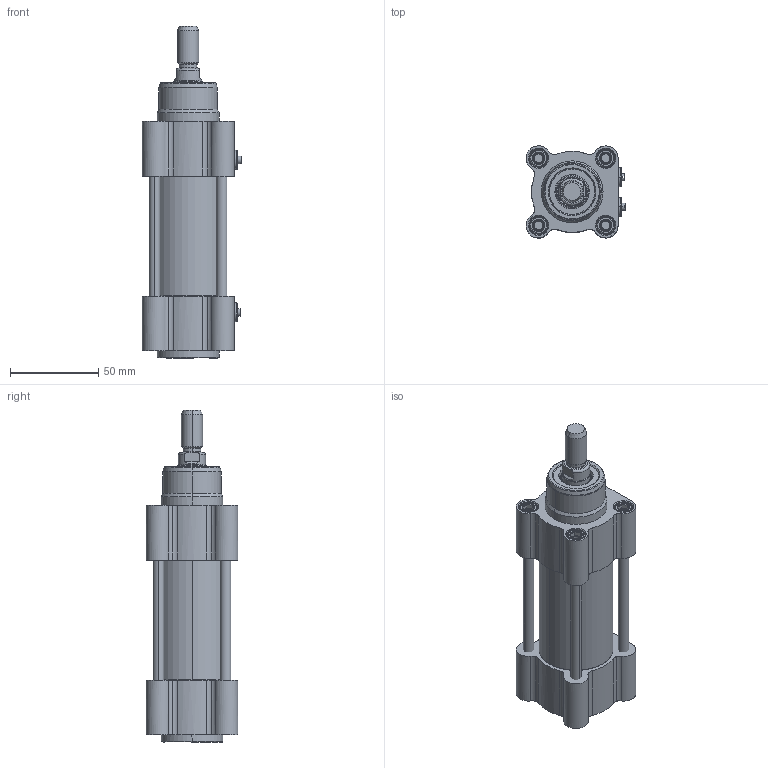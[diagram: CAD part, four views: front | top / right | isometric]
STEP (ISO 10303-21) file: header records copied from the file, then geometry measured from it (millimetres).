
FILE_DESCRIPTION (( 'STEP AP203' ), '1' );
FILE_NAME ('CTMI40-25.STEP', '2020-03-26T19:06:25', ( '' ), ( '' ), 'SwSTEP 2.0', 'SolidWorks 2019', '' );
FILE_SCHEMA (( 'CONFIG_CONTROL_DESIGN' ));
Length unit declared in the file: millimetre
Products named in the file (1): CTMI40-25
Bounding box: 56.39 x 52 x 188 mm (x, y, z)
Surface area: 78328 mm2 (no closed solid volume)
Topology: 0 solids, 24 shells, 689 faces, 1578 edges, 970 vertices
Faces by surface type: cylinder 201, cone 195, plane 193, torus 84, bspline 16
Entity records: 29688 total; most frequent: CARTESIAN_POINT 16244, ORIENTED_EDGE 3112, DIRECTION 2051, EDGE_CURVE 1578, B_SPLINE_CURVE_WITH_KNOTS 995, VERTEX_POINT 970, AXIS2_PLACEMENT_3D 842, EDGE_LOOP 764
